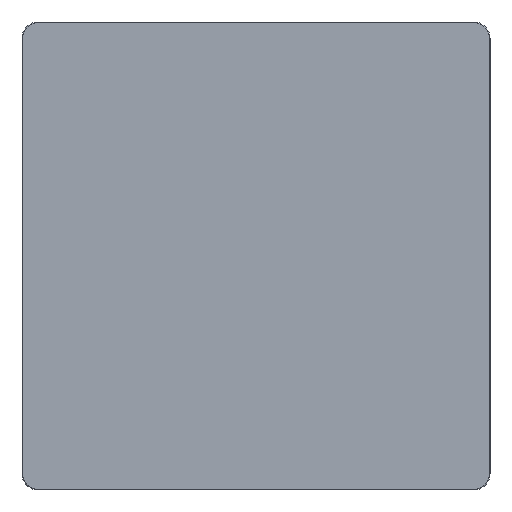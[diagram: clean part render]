
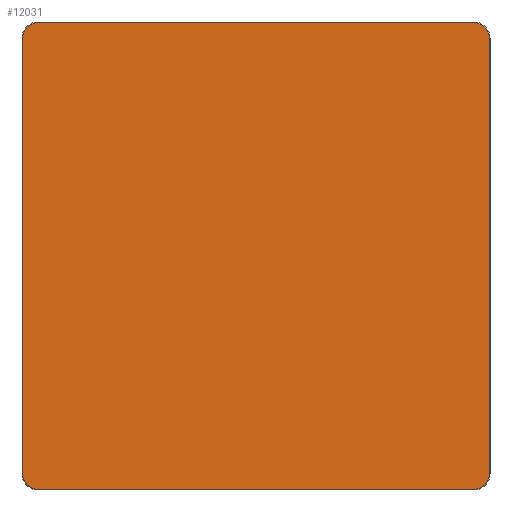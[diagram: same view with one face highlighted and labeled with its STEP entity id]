
A CAD part, top view. The second image highlights one B-rep face of the part: STEP entity #12031.
In plain terms, the highlighted planar face has unit normal (0, 0, 1).
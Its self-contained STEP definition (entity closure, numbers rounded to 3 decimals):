
#11956=CARTESIAN_POINT('',(0.,0.,20.));
#11957=DIRECTION('',(1.,0.,0.));
#11958=DIRECTION('',(0.,0.,1.));
#11959=AXIS2_PLACEMENT_3D('',#11956,#11958,#11957);
#11960=PLANE('',#11959);
#11961=CARTESIAN_POINT('',(-465.,-498.5,20.));
#11962=VERTEX_POINT('',#11961);
#11963=CARTESIAN_POINT('',(465.,-498.5,20.));
#11964=VERTEX_POINT('',#11963);
#11965=CARTESIAN_POINT('',(-465.,-498.5,20.));
#11966=DIRECTION('',(1.,0.,0.));
#11967=VECTOR('',#11966,930.);
#11968=LINE('',#11965,#11967);
#11969=EDGE_CURVE('',#11962,#11964,#11968,.T.);
#11970=ORIENTED_EDGE('E105',*,*,#11969,.T.);
#11971=CARTESIAN_POINT('',(498.5,-465.,20.));
#11972=VERTEX_POINT('',#11971);
#11973=CARTESIAN_POINT('',(465.,-465.,20.));
#11974=DIRECTION('',(0.,-1.,0.));
#11975=DIRECTION('',(0.,0.,1.));
#11976=AXIS2_PLACEMENT_3D('',#11973,#11975,#11974);
#11977=CIRCLE('',#11976,33.5);
#11978=EDGE_CURVE('',#11964,#11972,#11977,.T.);
#11979=ORIENTED_EDGE('E107',*,*,#11978,.T.);
#11980=CARTESIAN_POINT('',(498.5,465.,20.));
#11981=VERTEX_POINT('',#11980);
#11982=CARTESIAN_POINT('',(498.5,-465.,20.));
#11983=DIRECTION('',(0.,1.,0.));
#11984=VECTOR('',#11983,930.);
#11985=LINE('',#11982,#11984);
#11986=EDGE_CURVE('',#11972,#11981,#11985,.T.);
#11987=ORIENTED_EDGE('E109',*,*,#11986,.T.);
#11988=CARTESIAN_POINT('',(465.,498.5,20.));
#11989=VERTEX_POINT('',#11988);
#11990=CARTESIAN_POINT('',(465.,465.,20.));
#11991=DIRECTION('',(1.,0.,0.));
#11992=DIRECTION('',(0.,0.,1.));
#11993=AXIS2_PLACEMENT_3D('',#11990,#11992,#11991);
#11994=CIRCLE('',#11993,33.5);
#11995=EDGE_CURVE('',#11981,#11989,#11994,.T.);
#11996=ORIENTED_EDGE('E111',*,*,#11995,.T.);
#11997=CARTESIAN_POINT('',(-465.,498.5,20.));
#11998=VERTEX_POINT('',#11997);
#11999=CARTESIAN_POINT('',(465.,498.5,20.));
#12000=DIRECTION('',(-1.,0.,0.));
#12001=VECTOR('',#12000,930.);
#12002=LINE('',#11999,#12001);
#12003=EDGE_CURVE('',#11989,#11998,#12002,.T.);
#12004=ORIENTED_EDGE('E113',*,*,#12003,.T.);
#12005=CARTESIAN_POINT('',(-498.5,465.,20.));
#12006=VERTEX_POINT('',#12005);
#12007=CARTESIAN_POINT('',(-465.,465.,20.));
#12008=DIRECTION('',(0.,1.,0.));
#12009=DIRECTION('',(0.,0.,1.));
#12010=AXIS2_PLACEMENT_3D('',#12007,#12009,#12008);
#12011=CIRCLE('',#12010,33.5);
#12012=EDGE_CURVE('',#11998,#12006,#12011,.T.);
#12013=ORIENTED_EDGE('E115',*,*,#12012,.T.);
#12014=CARTESIAN_POINT('',(-498.5,-465.,20.));
#12015=VERTEX_POINT('',#12014);
#12016=CARTESIAN_POINT('',(-498.5,465.,20.));
#12017=DIRECTION('',(0.,-1.,0.));
#12018=VECTOR('',#12017,930.);
#12019=LINE('',#12016,#12018);
#12020=EDGE_CURVE('',#12006,#12015,#12019,.T.);
#12021=ORIENTED_EDGE('E117',*,*,#12020,.T.);
#12022=CARTESIAN_POINT('',(-465.,-465.,20.));
#12023=DIRECTION('',(-1.,0.,0.));
#12024=DIRECTION('',(0.,0.,1.));
#12025=AXIS2_PLACEMENT_3D('',#12022,#12024,#12023);
#12026=CIRCLE('',#12025,33.5);
#12027=EDGE_CURVE('',#12015,#11962,#12026,.T.);
#12028=ORIENTED_EDGE('E119',*,*,#12027,.T.);
#12029=EDGE_LOOP('',(#11970,#11979,#11987,#11996,#12004,#12013,#12021,#12028));
#12030=FACE_OUTER_BOUND('',#12029,.T.);
#12031=ADVANCED_FACE('F2',(#12030),#11960,.T.);
